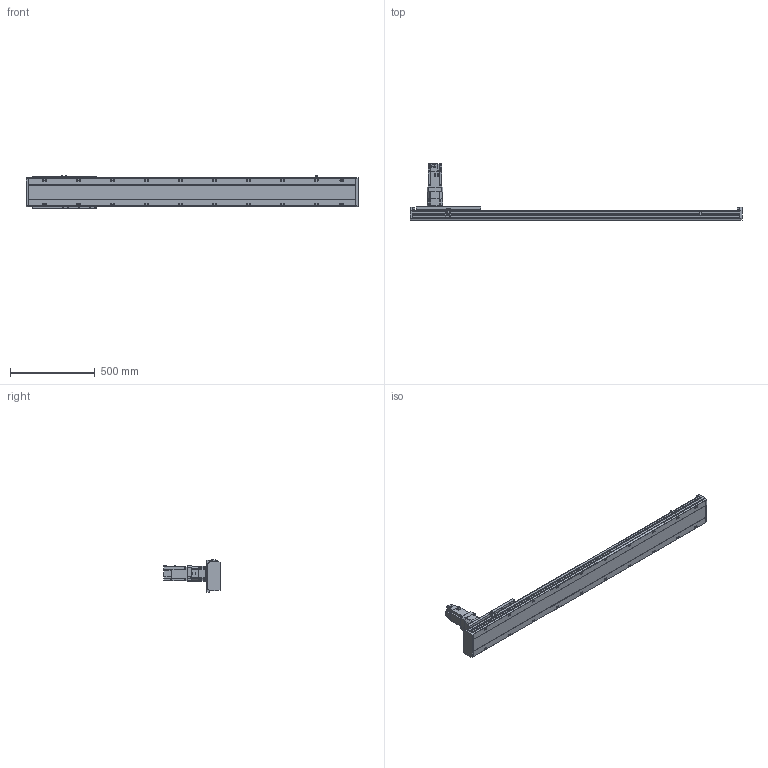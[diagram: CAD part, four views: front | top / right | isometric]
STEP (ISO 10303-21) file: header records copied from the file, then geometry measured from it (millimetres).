
FILE_DESCRIPTION(/* description */ ('STEP AP203'),/* implementation_level */ '2;1');
FILE_NAME(/* name */ 'SHS17A-L13-S1500-BC-T75-C1-N(0)',/* time_stamp */ '2023-03-27T08:57:36+02:00',/* author */ ('License CC BY-ND 4.0'),/* organization */ ('CADENAS'),/* preprocessor_version */ 'ST-DEVELOPER v19.3',/* originating_system */ 'PARTsolutions',/* authorisation */ ' ');
FILE_SCHEMA (('CONFIG_CONTROL_DESIGN'));
Length unit declared in the file: millimetre
Products named in the file (7): SHS17A-L13-S1500-BC-T75-C1-N(0); PSC140-sensor; SHS17A-S1500(0)_body2; T75-p1; SHS17A-S1500_body3; SHS17A-S1500-C1(0)_slider; SHS17A-S1500-C1(0)_body
Assembly tree (13 placements, depth 2):
  SHS17A-L13-S1500-BC-T75-C1-N(0)
    PSC140-sensor  x3
    SHS17A-S1500(0)_body2  x6
    T75-p1
    SHS17A-S1500_body3
    SHS17A-S1500-C1(0)_slider
    SHS17A-S1500-C1(0)_body
Bounding box: 1954 x 333.8 x 193.4 mm (x, y, z)
Volume: 14998663.6 mm3; surface area: 1776554 mm2
Topology: 13 solids, 13 shells, 1976 faces, 5001 edges, 3260 vertices
Faces by surface type: plane 1299, cylinder 600, cone 74, torus 3
Full cylindrical faces by diameter (mm): 2.8 x3, 4.134 x24, 4.5 x2, 4.6 x3, 4.917 x15, 5.5 x48, 6 x7, 6.5 x24, 6.647 x28, 6.8 x9, 8 x3, 8.5 x20, 10 x28, 11 x4, 14 x20, 22 x1, 24 x1, 24.2 x1, 28 x1, 28.2 x1, 28.8 x1, 29.8 x1, 48.542 x1, 68 x1, 70 x1, 78 x1, 80 x2
Entity records: 35864 total; most frequent: CARTESIAN_POINT 6788, DIRECTION 5923, ORIENTED_EDGE 5660, EDGE_CURVE 2830, AXIS2_PLACEMENT_3D 2062, VERTEX_POINT 1987, LINE 1799, VECTOR 1799
